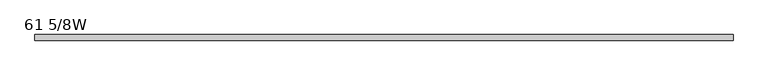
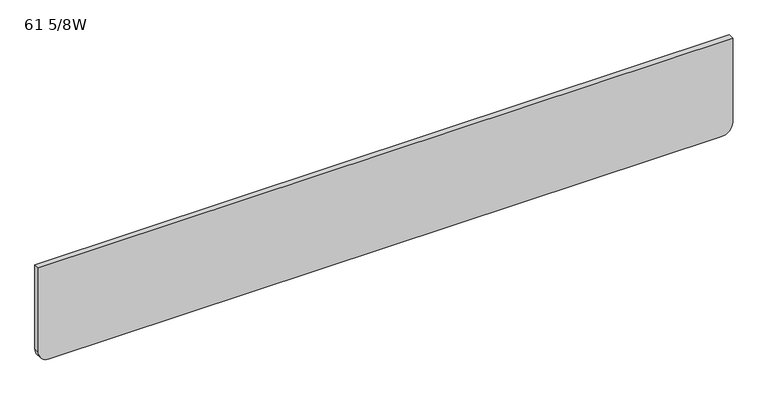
"""IFC4 building model written with IfcOpenShell, lengths in millimetres: furniture geometry, Steelcase - Groupwork - Table Component - Modesty Panel : 61 5/8W."""

from ifc_helpers import new_model, si_unit, point, frame, frame_2d, origin, place, context, project, spatial, polyline, circle_curve, trimmed, segment, composite_curve, outline, extrude, source, transform, mapped, element, save


def furniture_61_5_8w_e17e0118(model_context):
    return source(origin(), model_context, "Body", "SweptSolid", [
        extrude(outline(composite_curve([segment(polyline([(497.8399855, 1660.7116774), (698.5000242, 1660.7116774), (698.5000242, 94.8016774), (497.8399855, 94.8016774)]), True, "CONTINUOUS"), segment(trimmed(circle_curve(frame_2d((497.8399855, 120.2016774)), 25.4), [point((497.8399855, 94.8016774))], [point((472.4399855, 120.2016774))], False, "CARTESIAN"), True, "CONTINUOUS"), segment(polyline([(472.4399855, 120.2016774), (472.4399855, 1635.3116774)]), True, "CONTINUOUS"), segment(trimmed(circle_curve(frame_2d((497.8399855, 1635.3116774)), 25.4), [point((472.4399855, 1635.3116774))], [point((497.8399855, 1660.7116774))], False, "CARTESIAN"), True, "CONTINUOUS")], self_intersect=False)), frame((0.0, -585.8617631, 0.0), z_axis=(0.0, 1.0, 0.0), x_axis=(0.0, 0.0, 1.0)), (0.0, 0.0, 1.0), 12.7),
    ])


if __name__ == "__main__":
    model = new_model("IFC4")
    model_context = context("Model", 3, world=origin())
    ifc_project = project(units=[si_unit("LENGTHUNIT", "METRE", prefix="MILLI")], contexts=[model_context])
    site = spatial("IfcSite", under=ifc_project)
    building = spatial("IfcBuilding", under=site)
    placement = place(None, origin())
    furniture_61_5_8w_shape = furniture_61_5_8w_e17e0118(model_context)
    element("IfcFurniture", 1, ObjectType="Steelcase - Groupwork - Table Component - Modesty Panel : 61 5/8W", at=placement, inside=building, context=model_context, shape_type="MappedRepresentation", body=[
        mapped(furniture_61_5_8w_shape, transform((0.0, 0.0, 0.0), x_axis=(1.0, 0.0, 0.0), y_axis=(0.0, 1.0, 0.0), z_axis=(0.0, 0.0, 1.0))),
    ])
    save(model, "model.ifc")
